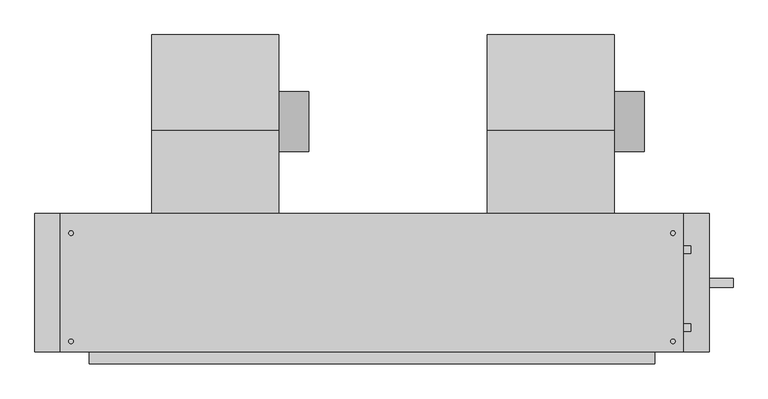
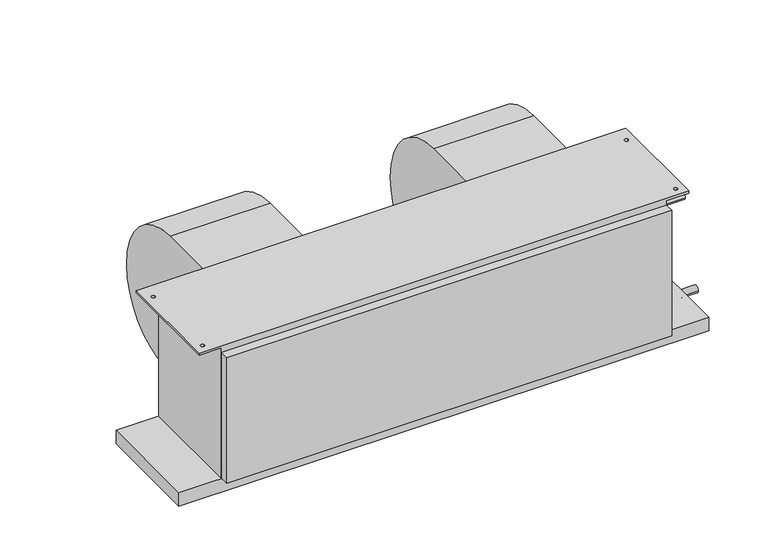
"""IFC4 building model written with IfcOpenShell, lengths in millimetres: proxy geometry, Concealed_High_Capacity_Horizontal_Fan_Coil_Unit_-_42DAA_-_CARRIER_-_2-Pipe_Cool-EHeat_RH_2022 : Size 20 - 277v/60Hz/1Ph - 6 Row 14.0kW."""

from ifc_helpers import new_model, si_unit, point, frame, frame_2d, origin, place, context, project, spatial, polyline, circle_curve, trimmed, segment, composite_curve, outline, extrude, source, transform, mapped, element, save
from ifc_brep_helpers import plane_surface, cylinder_surface, revolved_surface, advanced_brep


def mechanical_equipment_b630f660(model_context):
    return source(origin(), model_context, "Body", "SolidModel", [
        extrude(outline(composite_curve([segment(trimmed(circle_curve(frame_2d((102.0007598, -206.8897468)), 63.5), [point((165.5007598, -206.8897468))], [point((38.5007598, -206.8897468))], False, "CARTESIAN"), True, "CONTINUOUS"), segment(trimmed(circle_curve(frame_2d((102.0007598, -206.8897468)), 63.5), [point((38.5007598, -206.8897468))], [point((165.5007598, -206.8897468))], False, "CARTESIAN"), True, "CONTINUOUS")], self_intersect=False)), frame((-44.45, 0.0, 0.0), z_axis=(1.0, 0.0, 0.0), x_axis=(0.0, 1.0, 0.0)), (0.0, 0.0, 1.0), 63.5),
        advanced_brep(
        [(-312.674, 285.5155957, -222.029602), (-312.674, 104.6226, -403.64664), (-312.674, -50.9016, -277.10638), (-312.674, -92.075, -277.10638), (-312.674, -92.075, -19.05), (-312.674, 83.0080093, -19.05), (-44.45, 285.5155957, -222.029602), (-44.45, 83.0080093, -19.05), (-44.45, -92.075, -19.05), (-44.45, -92.075, -277.10638), (-44.45, -50.9016, -277.10638), (-44.45, 104.622599, -403.6457839)],
        [
            (0, 1, circle_curve(frame((-312.674, 104.44226, -222.57258), z_axis=(-1.0, 0.0, 0.0), x_axis=(0.0, -1.0, 0.0)), 181.0741498)),
            (1, 2, circle_curve(frame((-312.674, 104.44226, -245.02364), z_axis=(-1.0, 0.0, 0.0), x_axis=(0.0, -1.0, 0.0)), 158.6222464)),
            (2, 3),
            (3, 4),
            (4, 5),
            (5, 0, circle_curve(frame((-312.674, 81.9912, -222.57258), z_axis=(-1.0, 0.0, 0.0), x_axis=(0.0, -1.0, 0.0)), 203.52512)),
            (6, 7, circle_curve(frame((-44.45, 81.9912, -222.57258), z_axis=(1.0, 0.0, 0.0), x_axis=(0.0, -1.0, 0.0)), 203.52512)),
            (7, 8),
            (8, 9),
            (9, 10),
            (10, 11, circle_curve(frame((-44.45, 104.44226, -245.02364), z_axis=(1.0, 0.0, 0.0), x_axis=(0.0, -1.0, 0.0)), 158.6222464)),
            (11, 6, circle_curve(frame((-44.45, 104.44226, -222.57258), z_axis=(1.0, 0.0, 0.0), x_axis=(0.0, -1.0, 0.0)), 181.0741498)),
            (0, 6),
            (11, 1),
            (10, 2),
            (9, 3),
            (8, 4),
            (7, 5),
        ],
        [
            plane_surface(frame((-312.674, -76.6318898, -222.57258), z_axis=(-1.0, 0.0, 0.0), x_axis=(0.0, 0.0, 1.0))),
            plane_surface(frame((-44.45, -76.6318898, -222.57258), z_axis=(1.0, 0.0, 0.0), x_axis=(0.0, 0.0, -1.0))),
            cylinder_surface(frame((-44.45, 104.44226, -222.57258), z_axis=(-1.0, 0.0, 0.0), x_axis=(0.0, -1.0, 0.0)), 181.0741498),
            cylinder_surface(frame((-44.45, 104.44226, -245.02364), z_axis=(-1.0, 0.0, 0.0), x_axis=(0.0, -1.0, 0.0)), 158.6222464),
            plane_surface(frame((-312.674, -50.9016, -277.10638), z_axis=(0.0, 0.0, -1.0), x_axis=(1.0, 0.0, 0.0))),
            plane_surface(frame((-312.674, -92.075, -277.10638), z_axis=(0.0, -1.0, 0.0), x_axis=(1.0, 0.0, 0.0))),
            plane_surface(frame((-312.674, -92.075, -19.05), z_axis=(0.0, 0.0, 1.0), x_axis=(1.0, 0.0, 0.0))),
            cylinder_surface(frame((-44.45, 81.9912, -222.57258), z_axis=(-1.0, 0.0, 0.0), x_axis=(0.0, -1.0, 0.0)), 203.52512),
        ],
        [
            (0, [[1, 2, 3, 4, 5, 6]]),
            (1, [[7, 8, 9, 10, 11, 12]]),
            (2, [[-1, 13, -12, 14]]),
            (3, [[-2, -14, -11, 15]]),
            (4, [[-3, -15, -10, 16]]),
            (5, [[-4, -16, -9, 17]]),
            (6, [[-5, -17, -8, 18]]),
            (7, [[-6, -18, -7, -13]]),
        ],
    ),
        extrude(outline(composite_curve([segment(trimmed(circle_curve(frame_2d((102.0007598, -206.8897468)), 63.5), [point((165.5007598, -206.8897468))], [point((38.5007598, -206.8897468))], False, "CARTESIAN"), True, "CONTINUOUS"), segment(trimmed(circle_curve(frame_2d((102.0007598, -206.8897468)), 63.5), [point((38.5007598, -206.8897468))], [point((165.5007598, -206.8897468))], False, "CARTESIAN"), True, "CONTINUOUS")], self_intersect=False)), frame((663.575, 0.0, 0.0), z_axis=(1.0, 0.0, 0.0), x_axis=(0.0, 1.0, 0.0)), (0.0, 0.0, 1.0), 63.5),
        advanced_brep(
        [(395.351, 285.5155957, -222.029602), (395.351, 104.6226, -403.64664), (395.351, -50.9016, -277.10638), (395.351, -92.075, -277.10638), (395.351, -92.075, -19.05), (395.351, 83.0080093, -19.05), (663.575, 285.5155957, -222.029602), (663.575, 83.0080093, -19.05), (663.575, -92.075, -19.05), (663.575, -92.075, -277.10638), (663.575, -50.9016, -277.10638), (663.575, 104.622599, -403.6457839)],
        [
            (0, 1, circle_curve(frame((395.351, 104.44226, -222.57258), z_axis=(-1.0, 0.0, 0.0), x_axis=(0.0, -1.0, 0.0)), 181.0741498)),
            (1, 2, circle_curve(frame((395.351, 104.44226, -245.02364), z_axis=(-1.0, 0.0, 0.0), x_axis=(0.0, -1.0, 0.0)), 158.6222464)),
            (2, 3),
            (3, 4),
            (4, 5),
            (5, 0, circle_curve(frame((395.351, 81.9912, -222.57258), z_axis=(-1.0, 0.0, 0.0), x_axis=(0.0, -1.0, 0.0)), 203.52512)),
            (6, 7, circle_curve(frame((663.575, 81.9912, -222.57258), z_axis=(1.0, 0.0, 0.0), x_axis=(0.0, -1.0, 0.0)), 203.52512)),
            (7, 8),
            (8, 9),
            (9, 10),
            (10, 11, circle_curve(frame((663.575, 104.44226, -245.02364), z_axis=(1.0, 0.0, 0.0), x_axis=(0.0, -1.0, 0.0)), 158.6222464)),
            (11, 6, circle_curve(frame((663.575, 104.44226, -222.57258), z_axis=(1.0, 0.0, 0.0), x_axis=(0.0, -1.0, 0.0)), 181.0741498)),
            (0, 6),
            (11, 1),
            (10, 2),
            (9, 3),
            (8, 4),
            (7, 5),
        ],
        [
            plane_surface(frame((395.351, -76.6318898, -222.57258), z_axis=(-1.0, 0.0, 0.0), x_axis=(0.0, 0.0, 1.0))),
            plane_surface(frame((663.575, -76.6318898, -222.57258), z_axis=(1.0, 0.0, 0.0), x_axis=(0.0, 0.0, -1.0))),
            cylinder_surface(frame((663.575, 104.44226, -222.57258), z_axis=(-1.0, 0.0, 0.0), x_axis=(0.0, -1.0, 0.0)), 181.0741498),
            cylinder_surface(frame((663.575, 104.44226, -245.02364), z_axis=(-1.0, 0.0, 0.0), x_axis=(0.0, -1.0, 0.0)), 158.6222464),
            plane_surface(frame((395.351, -50.9016, -277.10638), z_axis=(0.0, 0.0, -1.0), x_axis=(1.0, 0.0, 0.0))),
            plane_surface(frame((395.351, -92.075, -277.10638), z_axis=(0.0, -1.0, 0.0), x_axis=(1.0, 0.0, 0.0))),
            plane_surface(frame((395.351, -92.075, -19.05), z_axis=(0.0, 0.0, 1.0), x_axis=(1.0, 0.0, 0.0))),
            cylinder_surface(frame((663.575, 81.9912, -222.57258), z_axis=(-1.0, 0.0, 0.0), x_axis=(0.0, -1.0, 0.0)), 203.52512),
        ],
        [
            (0, [[1, 2, 3, 4, 5, 6]]),
            (1, [[7, 8, 9, 10, 11, 12]]),
            (2, [[-1, 13, -12, 14]]),
            (3, [[-2, -14, -11, 15]]),
            (4, [[-3, -15, -10, 16]]),
            (5, [[-4, -16, -9, 17]]),
            (6, [[-5, -17, -8, 18]]),
            (7, [[-6, -18, -7, -13]]),
        ],
    ),
        advanced_brep(
        [(749.3, -92.075, -377.825), (749.3, -384.175, -377.825), (-444.5, -384.175, -377.825), (-444.5, -92.075, -377.825), (-444.5, -384.175, -6.35), (-444.5, -92.075, -6.35), (749.3, -92.075, -6.35), (749.3, -384.175, -6.35), (809.625, -92.075, -6.35), (809.625, -384.175, -6.35), (782.6375, -133.35, -6.35), (792.1625, -133.35, -6.35), (782.6375, -361.95, -6.35), (792.1625, -361.95, -6.35), (-504.825, -92.075, -6.35), (-504.825, -384.175, -6.35), (-487.3625, -133.35, -6.35), (-477.8375, -133.35, -6.35), (-487.3625, -361.95, -6.35), (-477.8375, -361.95, -6.35), (809.625, -384.175, 0.0), (809.625, -92.075, 0.0), (-504.825, -92.075, 0.0), (-504.825, -384.175, 0.0), (-477.8375, -133.35, 0.0), (-487.3625, -133.35, 0.0), (-477.8375, -361.95, 0.0), (-487.3625, -361.95, 0.0), (792.1625, -133.35, 0.0), (782.6375, -133.35, 0.0), (792.1625, -361.95, 0.0), (782.6375, -361.95, 0.0)],
        [
            (0, 1),
            (1, 2),
            (2, 3),
            (3, 0),
            (2, 4),
            (4, 5),
            (5, 3),
            (0, 6),
            (6, 7),
            (7, 1),
            (8, 9),
            (9, 7),
            (6, 8),
            (10, 11, circle_curve(frame((787.4, -133.35, -6.35), z_axis=(0.0, 0.0, 1.0), x_axis=(1.0, 0.0, 0.0)), 4.7625)),
            (11, 10, circle_curve(frame((787.4, -133.35, -6.35), z_axis=(0.0, 0.0, 1.0), x_axis=(1.0, 0.0, 0.0)), 4.7625)),
            (12, 13, circle_curve(frame((787.4, -361.95, -6.35), z_axis=(0.0, 0.0, 1.0), x_axis=(1.0, 0.0, 0.0)), 4.7625)),
            (13, 12, circle_curve(frame((787.4, -361.95, -6.35), z_axis=(0.0, 0.0, 1.0), x_axis=(1.0, 0.0, 0.0)), 4.7625)),
            (14, 5),
            (4, 15),
            (15, 14),
            (16, 17, circle_curve(frame((-482.6, -133.35, -6.35), z_axis=(0.0, 0.0, 1.0), x_axis=(1.0, 0.0, 0.0)), 4.7625)),
            (17, 16, circle_curve(frame((-482.6, -133.35, -6.35), z_axis=(0.0, 0.0, 1.0), x_axis=(1.0, 0.0, 0.0)), 4.7625)),
            (18, 19, circle_curve(frame((-482.6, -361.95, -6.35), z_axis=(0.0, 0.0, 1.0), x_axis=(1.0, 0.0, 0.0)), 4.7625)),
            (19, 18, circle_curve(frame((-482.6, -361.95, -6.35), z_axis=(0.0, 0.0, 1.0), x_axis=(1.0, 0.0, 0.0)), 4.7625)),
            (20, 21),
            (21, 22),
            (22, 23),
            (23, 20),
            (24, 25, circle_curve(frame((-482.6, -133.35, 0.0), z_axis=(0.0, 0.0, -1.0), x_axis=(1.0, 0.0, 0.0)), 4.7625)),
            (25, 24, circle_curve(frame((-482.6, -133.35, 0.0), z_axis=(0.0, 0.0, -1.0), x_axis=(1.0, 0.0, 0.0)), 4.7625)),
            (26, 27, circle_curve(frame((-482.6, -361.95, 0.0), z_axis=(0.0, 0.0, -1.0), x_axis=(1.0, 0.0, 0.0)), 4.7625)),
            (27, 26, circle_curve(frame((-482.6, -361.95, 0.0), z_axis=(0.0, 0.0, -1.0), x_axis=(1.0, 0.0, 0.0)), 4.7625)),
            (28, 29, circle_curve(frame((787.4, -133.35, 0.0), z_axis=(0.0, 0.0, -1.0), x_axis=(1.0, 0.0, 0.0)), 4.7625)),
            (29, 28, circle_curve(frame((787.4, -133.35, 0.0), z_axis=(0.0, 0.0, -1.0), x_axis=(1.0, 0.0, 0.0)), 4.7625)),
            (30, 31, circle_curve(frame((787.4, -361.95, 0.0), z_axis=(0.0, 0.0, -1.0), x_axis=(1.0, 0.0, 0.0)), 4.7625)),
            (31, 30, circle_curve(frame((787.4, -361.95, 0.0), z_axis=(0.0, 0.0, -1.0), x_axis=(1.0, 0.0, 0.0)), 4.7625)),
            (14, 22),
            (21, 8),
            (9, 20),
            (23, 15),
            (24, 17),
            (16, 25),
            (26, 19),
            (18, 27),
            (28, 11),
            (10, 29),
            (30, 13),
            (12, 31),
        ],
        [
            plane_surface(frame((-444.5, -92.075, -377.825), z_axis=(0.0, 0.0, -1.0), x_axis=(1.0, 0.0, 0.0))),
            plane_surface(frame((-444.5, -92.075, 0.0), z_axis=(-1.0, 0.0, 0.0), x_axis=(0.0, 0.0, -1.0))),
            plane_surface(frame((749.3, -384.175, 0.0), z_axis=(1.0, 0.0, 0.0), x_axis=(0.0, 0.0, -1.0))),
            plane_surface(frame((749.3, -92.075, -6.35), z_axis=(0.0, 0.0, -1.0), x_axis=(1.0, 0.0, 0.0))),
            plane_surface(frame((749.3, -92.075, 0.0), z_axis=(0.0, 0.0, 1.0), x_axis=(-1.0, 0.0, 0.0))),
            plane_surface(frame((809.625, -92.075, 0.0), z_axis=(0.0, 1.0, 0.0), x_axis=(0.0, 0.0, -1.0))),
            plane_surface(frame((749.3, -384.175, 0.0), z_axis=(0.0, -1.0, 0.0), x_axis=(0.0, 0.0, -1.0))),
            plane_surface(frame((809.625, -384.175, 0.0), z_axis=(1.0, 0.0, 0.0), x_axis=(0.0, 0.0, -1.0))),
            plane_surface(frame((-504.825, -92.075, 0.0), z_axis=(-1.0, 0.0, 0.0), x_axis=(0.0, 0.0, -1.0))),
            revolved_surface(polyline([(-477.83750000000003, -133.35, 0.0), (-477.83750000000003, -133.35, -6.35)]), (-482.6, -133.35, -6.35), (0.0, 0.0, 1.0)),
            revolved_surface(polyline([(-477.83750000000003, -361.95, 0.0), (-477.83750000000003, -361.95, -6.35)]), (-482.6, -361.95, 0.0), (0.0, 0.0, 1.0)),
            revolved_surface(polyline([(792.1625, -133.35, 0.0), (792.1625, -133.35, -6.35)]), (787.4, -133.35, 0.0), (0.0, 0.0, 1.0)),
            revolved_surface(polyline([(792.1625, -361.95, 0.0), (792.1625, -361.95, -6.35)]), (787.4, -361.95, 0.0), (0.0, 0.0, 1.0)),
        ],
        [
            (0, [[1, 2, 3, 4]]),
            (1, [[-3, 5, 6, 7]]),
            (2, [[-1, 8, 9, 10]]),
            (3, [[11, 12, -9, 13], [14, 15], [16, 17]]),
            (3, [[18, -6, 19, 20], [21, 22], [23, 24]]),
            (4, [[25, 26, 27, 28], [29, 30], [31, 32], [33, 34], [35, 36]]),
            (5, [[-13, -8, -4, -7, -18, 37, -26, 38]]),
            (6, [[-12, 39, -28, 40, -19, -5, -2, -10]]),
            (7, [[-11, -38, -25, -39]]),
            (8, [[-20, -40, -27, -37]]),
            (9, [[41, -21, 42, -29]]),
            (9, [[-41, -30, -42, -22]]),
            (10, [[43, -23, 44, -31]]),
            (10, [[-43, -32, -44, -24]]),
            (11, [[45, -14, 46, -33]]),
            (11, [[-45, -34, -46, -15]]),
            (12, [[47, -16, 48, -35]]),
            (12, [[-47, -36, -48, -17]]),
        ],
    ),
        extrude(outline(composite_curve([segment(trimmed(circle_curve(frame_2d((-238.125, -403.225)), 9.525), [point((-228.6, -403.225))], [point((-247.65, -403.225))], False, "CARTESIAN"), True, "CONTINUOUS"), segment(trimmed(circle_curve(frame_2d((-238.125, -403.225)), 9.525), [point((-247.65, -403.225))], [point((-228.6, -403.225))], False, "CARTESIAN"), True, "CONTINUOUS")], self_intersect=False)), frame((863.6, 0.0, 0.0), z_axis=(1.0, 0.0, 0.0), x_axis=(0.0, 1.0, 0.0)), (0.0, 0.0, 1.0), 50.8),
        extrude(outline(composite_curve([segment(trimmed(circle_curve(frame_2d((-333.375, -50.8)), 7.9375), [point((-325.4375, -50.8))], [point((-341.3125, -50.8))], False, "CARTESIAN"), True, "CONTINUOUS"), segment(trimmed(circle_curve(frame_2d((-333.375, -50.8)), 7.9375), [point((-341.3125, -50.8))], [point((-325.4375, -50.8))], False, "CARTESIAN"), True, "CONTINUOUS")], self_intersect=False)), frame((749.3, 0.0, 0.0), z_axis=(1.0, 0.0, 0.0), x_axis=(0.0, 1.0, 0.0)), (0.0, 0.0, 1.0), 76.2),
        extrude(outline(composite_curve([segment(trimmed(circle_curve(frame_2d((-168.275, -327.025)), 7.9375), [point((-160.3375, -327.025))], [point((-176.2125, -327.025))], False, "CARTESIAN"), True, "CONTINUOUS"), segment(trimmed(circle_curve(frame_2d((-168.275, -327.025)), 7.9375), [point((-176.2125, -327.025))], [point((-160.3375, -327.025))], False, "CARTESIAN"), True, "CONTINUOUS")], self_intersect=False)), frame((749.3, 0.0, 0.0), z_axis=(1.0, 0.0, 0.0), x_axis=(0.0, 1.0, 0.0)), (0.0, 0.0, 1.0), 76.2),
        extrude(outline(polyline([(749.3, -409.575), (-444.5, -409.575), (-444.5, -384.175), (749.3, -384.175), (749.3, -409.575)])), frame((0.0, 0.0, -374.65), z_axis=(0.0, 0.0, 1.0), x_axis=(1.0, 0.0, 0.0)), (0.0, 0.0, 1.0), 355.6),
        extrude(outline(polyline([(863.6, -92.075), (863.6, -384.175), (-558.8, -384.175), (-558.8, -92.075), (863.6, -92.075)])), frame((0.0, 0.0, -415.925), z_axis=(0.0, 0.0, 1.0), x_axis=(1.0, 0.0, 0.0)), (0.0, 0.0, 1.0), 38.1),
    ])


if __name__ == "__main__":
    model = new_model("IFC4")
    model_context = context("Model", 3, world=origin())
    ifc_project = project(units=[si_unit("LENGTHUNIT", "METRE", prefix="MILLI")], contexts=[model_context])
    site = spatial("IfcSite", under=ifc_project)
    building = spatial("IfcBuilding", under=site)
    placement = place(None, origin())
    mechanical_equipment_shape = mechanical_equipment_b630f660(model_context)
    element("IfcBuildingElementProxy", 1, Name="Concealed_High_Capacity_Horizontal_Fan_Coil_Unit_-_42DAA_-_CARRIER_-_2-Pipe_Cool-EHeat_RH_2022 : Size 20 - 277v/60Hz/1Ph - 6 Row 14.0kW", ObjectType="Concealed_High_Capacity_Horizontal_Fan_Coil_Unit_-_42DAA_-_CARRIER_-_2-Pipe_Cool-EHeat_RH_2022 : Size 20 - 277v/60Hz/1Ph - 6 Row 14.0kW", at=placement, inside=building, context=model_context, shape_type="MappedRepresentation", body=[
        mapped(mechanical_equipment_shape, transform((0.0, 0.0, 0.0), x_axis=(1.0, 0.0, 0.0), y_axis=(0.0, 1.0, 0.0), z_axis=(0.0, 0.0, 1.0))),
    ])
    save(model, "model.ifc")
